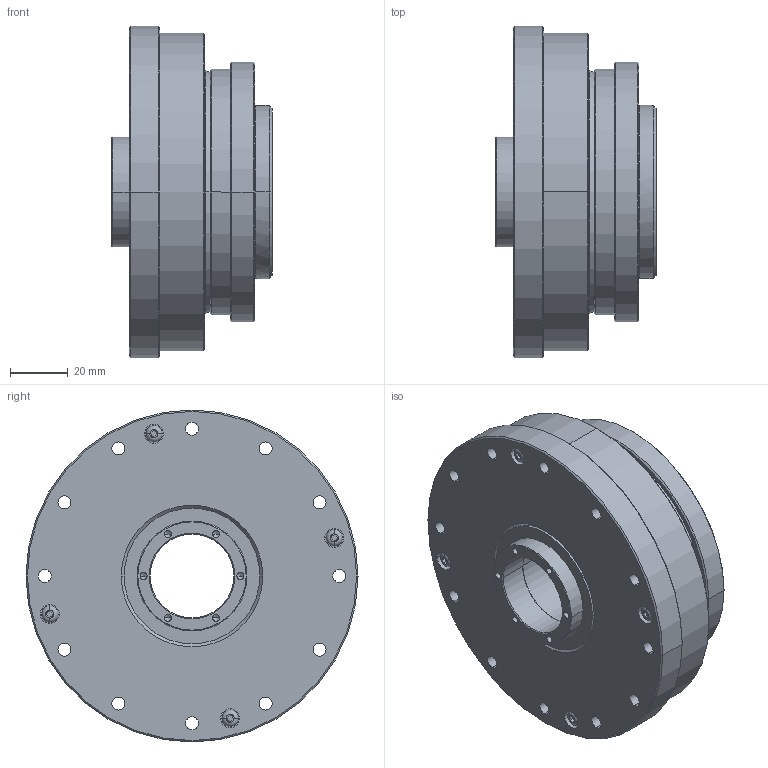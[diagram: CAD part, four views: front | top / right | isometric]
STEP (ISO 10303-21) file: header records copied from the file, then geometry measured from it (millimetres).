
FILE_DESCRIPTION(('STEP AP214'),'1');
FILE_NAME('cctmp_8D03E7E5-161C-47DD-BBDF-788F7B218152_2025_03_06_11_32_47_0794_85772..stp','2025-03-06T10:32:48',('HIWIN GmbH'),('CADClick - www.CADClick.com'),'Spatial InterOp 3D',' ','unknown authorization');
FILE_SCHEMA(('AUTOMOTIVE_DESIGN'));
Length unit declared in the file: millimetre
Products named in the file (2): DSH-25-XX-AH_FILE; 2025_03_06_11_32_47_0779
Assembly tree (1 placements, depth 2):
  DSH-25-XX-AH_FILE
    2025_03_06_11_32_47_0779
Bounding box: 55.5 x 115 x 115 mm (x, y, z)
Volume: 336339.2 mm3; surface area: 53058.6 mm2
Topology: 1 solids, 1 shells, 494 faces, 1132 edges, 680 vertices
Faces by surface type: cylinder 204, cone 154, plane 118, bspline 10, torus 8
Entity records: 18041 total; most frequent: CARTESIAN_POINT 2721, DIRECTION 2586, ORIENTED_EDGE 2152, EDGE_CURVE 1076, AXIS2_PLACEMENT_3D 1042, VERTEX_POINT 680, EDGE_LOOP 616, CIRCLE 556
